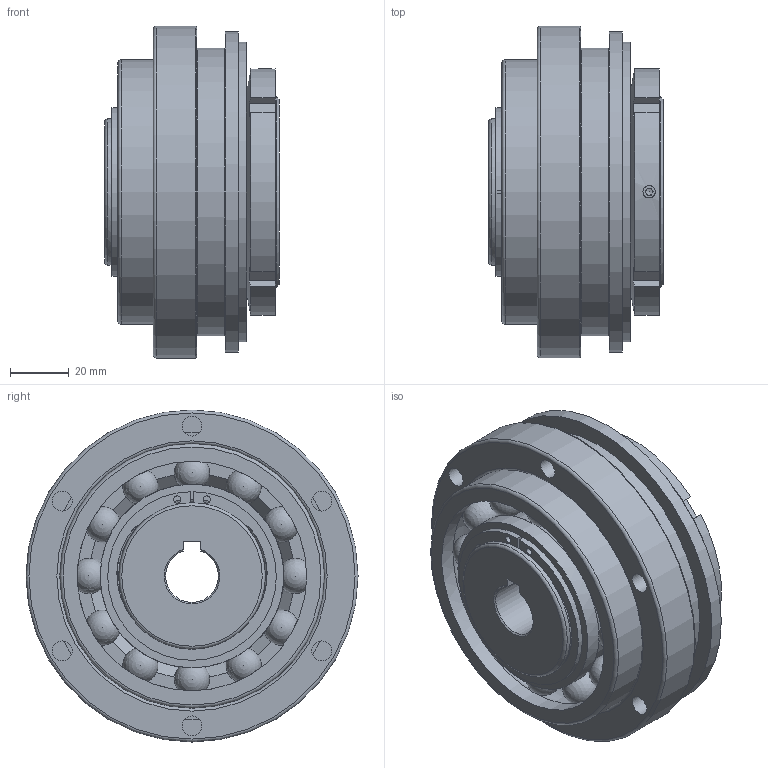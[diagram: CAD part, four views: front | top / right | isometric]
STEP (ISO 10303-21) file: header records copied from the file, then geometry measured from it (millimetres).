
FILE_DESCRIPTION( ( 'Unknown' ), '1' );
FILE_NAME( 'F:/JAKOB-STEP+IGES-Dateien/STEP-Dateien/SKW/SKW 230.stp', 'Unknown', ( 'Unknown' ), ( 'Unknown' ), 'PSStep 10.1', 'Unknown', ' ' );
FILE_SCHEMA( ( 'AUTOMOTIVE_DESIGN { 1 0 10303 214 1 1 1 1 }' ) );
Length unit declared in the file: millimetre
Products named in the file (1): 27920753
Bounding box: 59.5 x 113 x 113 mm (x, y, z)
Volume: 372930 mm3; surface area: 74258.4 mm2
Topology: 1 solids, 2 shells, 154 faces, 493 edges, 325 vertices
Faces by surface type: plane 56, torus 38, cylinder 37, sphere 12, cone 7, bspline 4
Full cylindrical faces by diameter (mm): 2.5 x2, 4.2 x3, 6.8 x6, 47.5 x1, 49.8 x1, 50 x2, 62.5 x2, 65 x2, 65.3 x1, 78.1 x2, 90 x2, 94 x2, 98 x1, 102 x1, 109 x1, 113 x1
Entity records: 7354 total; most frequent: CARTESIAN_POINT 2446, ORIENTED_EDGE 740, DIRECTION 722, EDGE_CURVE 370, AXIS2_PLACEMENT_3D 324, VERTEX_POINT 264, EDGE_LOOP 246, FACE_OUTER_BOUND 183
